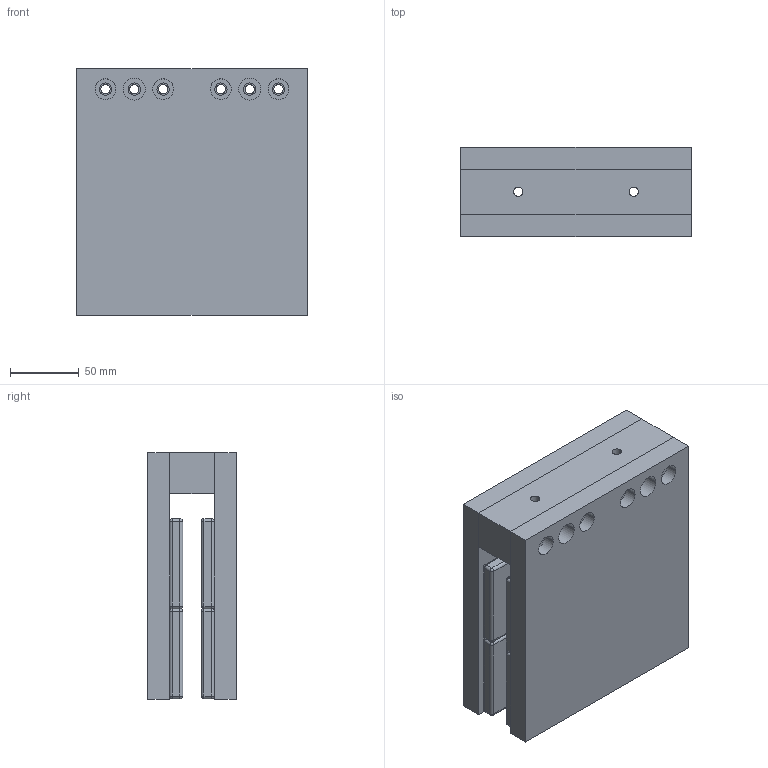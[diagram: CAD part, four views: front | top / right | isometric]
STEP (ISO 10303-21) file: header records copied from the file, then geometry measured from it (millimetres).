
FILE_DESCRIPTION (( 'STEP AP214' ), '1' );
FILE_NAME ('JKA6-168¶¨×Ó.STEP', '2025-09-05T12:51:30', ( '' ), ( '' ), 'SwSTEP 2.0', 'SolidWorks 2016', '' );
FILE_SCHEMA (( 'AUTOMOTIVE_DESIGN' ));
Length unit declared in the file: millimetre
Products named in the file (1): JKA6-168隅赽
Bounding box: 168 x 64.5 x 179.7 mm (x, y, z)
Volume: 1425372.8 mm3; surface area: 271732.5 mm2
Topology: 19 solids, 19 shells, 538 faces, 1188 edges, 568 vertices
Faces by surface type: cylinder 264, sphere 128, plane 126, cone 20
Entity records: 19690 total; most frequent: DIRECTION 2654, CARTESIAN_POINT 2215, ORIENTED_EDGE 2120, AXIS2_PLACEMENT_3D 1071, EDGE_CURVE 1060, EDGE_LOOP 590, VERTEX_POINT 568, UNCERTAINTY_MEASURE_WITH_UNIT 559
